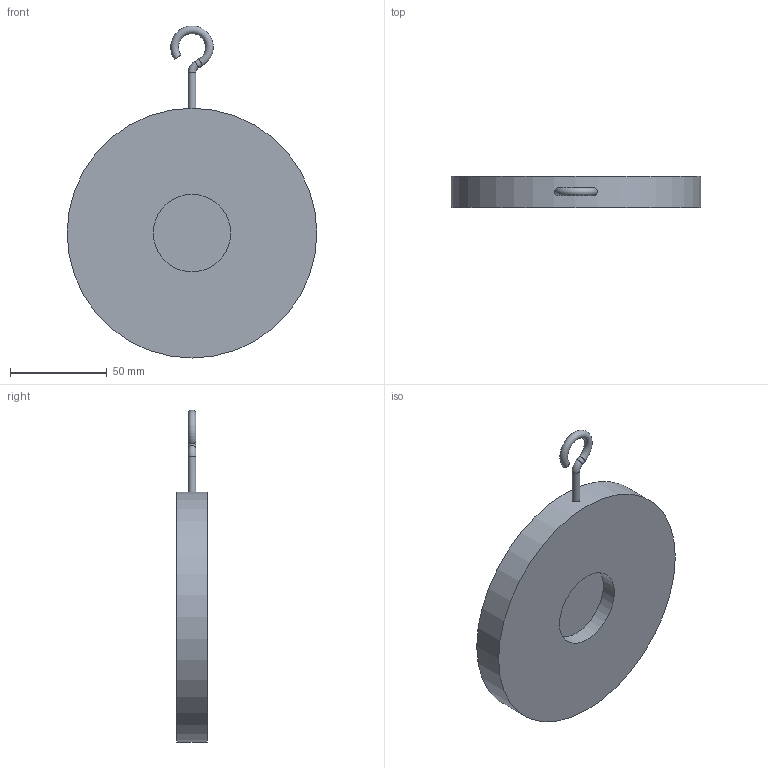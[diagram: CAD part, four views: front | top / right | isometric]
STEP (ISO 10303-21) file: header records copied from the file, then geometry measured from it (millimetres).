
FILE_DESCRIPTION(('STEP AP203'), '1');
FILE_NAME('孰囡囗 钺疣蝽 钿眍耱忸瘅囹 戾骠豚眦邂 008C DN65', '', ('UNSPECIFIED'), ('UNSPECIFIED'), 'ASCON STEP Converter 1.6', 'ASCON Math Kernel', '');
FILE_SCHEMA(('CONFIG_CONTROL_DESIGN'));
Length unit declared in the file: millimetre
Bounding box: 129 x 16 x 171.48 mm (x, y, z)
Volume: 180948.1 mm3; surface area: 36479.1 mm2
Topology: 1 solids, 1 shells, 15 faces, 30 edges, 19 vertices
Faces by surface type: plane 7, cylinder 5, torus 2, cone 1
Full cylindrical faces by diameter (mm): 4 x2, 40 x1, 129 x1
Entity records: 715 total; most frequent: CARTESIAN_POINT 271, DIRECTION 62, ORIENTED_EDGE 46, AXIS2_PLACEMENT_3D 28, EDGE_LOOP 24, EDGE_CURVE 23, VERTEX_POINT 19, COLOUR_RGB 16
